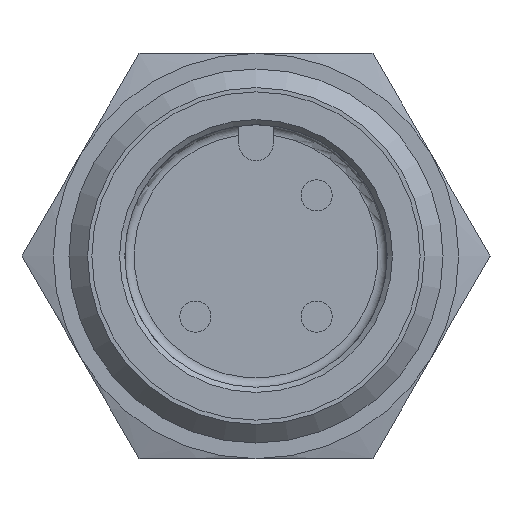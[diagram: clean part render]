
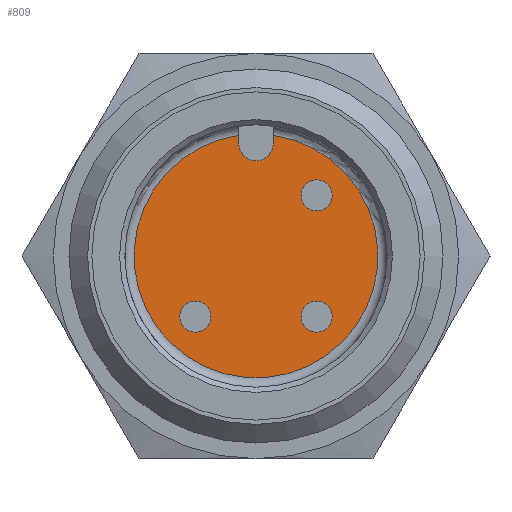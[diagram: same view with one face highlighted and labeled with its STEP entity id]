
A CAD part, left-side view. The second image highlights one B-rep face of the part: STEP entity #809.
In plain terms, the highlighted planar face has unit normal (-1, 0, 0).
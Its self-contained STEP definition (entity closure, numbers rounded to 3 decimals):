
#44=LINE('',#1521,#58);
#45=LINE('',#1525,#59);
#58=VECTOR('',#1097,1000.);
#59=VECTOR('',#1100,1000.);
#90=PLANE('',#922);
#121=CIRCLE('',#923,3.91);
#122=CIRCLE('',#924,0.55);
#123=CIRCLE('',#925,0.5);
#124=CIRCLE('',#926,0.5);
#125=CIRCLE('',#927,0.5);
#253=ORIENTED_EDGE('',*,*,#399,.F.);
#254=ORIENTED_EDGE('',*,*,#400,.T.);
#255=ORIENTED_EDGE('',*,*,#401,.T.);
#256=ORIENTED_EDGE('',*,*,#402,.T.);
#257=ORIENTED_EDGE('',*,*,#403,.T.);
#258=ORIENTED_EDGE('',*,*,#404,.T.);
#259=ORIENTED_EDGE('',*,*,#405,.T.);
#399=EDGE_CURVE('',#477,#478,#121,.T.);
#400=EDGE_CURVE('',#477,#479,#44,.T.);
#401=EDGE_CURVE('',#479,#480,#122,.T.);
#402=EDGE_CURVE('',#480,#478,#45,.T.);
#403=EDGE_CURVE('',#481,#481,#123,.T.);
#404=EDGE_CURVE('',#482,#482,#124,.T.);
#405=EDGE_CURVE('',#483,#483,#125,.T.);
#477=VERTEX_POINT('',#1519);
#478=VERTEX_POINT('',#1520);
#479=VERTEX_POINT('',#1522);
#480=VERTEX_POINT('',#1524);
#481=VERTEX_POINT('',#1527);
#482=VERTEX_POINT('',#1529);
#483=VERTEX_POINT('',#1531);
#588=EDGE_LOOP('',(#253,#254,#255,#256));
#589=EDGE_LOOP('',(#257));
#590=EDGE_LOOP('',(#258));
#591=EDGE_LOOP('',(#259));
#693=FACE_BOUND('',#588,.T.);
#694=FACE_BOUND('',#589,.T.);
#695=FACE_BOUND('',#590,.T.);
#696=FACE_BOUND('',#591,.T.);
#809=ADVANCED_FACE('',(#693,#694,#695,#696),#90,.F.);
#922=AXIS2_PLACEMENT_3D('',#1517,#1093,#1094);
#923=AXIS2_PLACEMENT_3D('',#1518,#1095,#1096);
#924=AXIS2_PLACEMENT_3D('',#1523,#1098,#1099);
#925=AXIS2_PLACEMENT_3D('',#1526,#1101,#1102);
#926=AXIS2_PLACEMENT_3D('',#1528,#1103,#1104);
#927=AXIS2_PLACEMENT_3D('',#1530,#1105,#1106);
#1093=DIRECTION('',(1.,0.,0.));
#1094=DIRECTION('',(0.,0.,-1.));
#1095=DIRECTION('',(1.,0.,0.));
#1096=DIRECTION('',(0.,0.,-1.));
#1097=DIRECTION('',(0.,0.,-1.));
#1098=DIRECTION('',(1.,0.,0.));
#1099=DIRECTION('',(0.,0.,-1.));
#1100=DIRECTION('',(0.,0.,1.));
#1101=DIRECTION('',(1.,0.,0.));
#1102=DIRECTION('',(0.,0.,-1.));
#1103=DIRECTION('',(1.,0.,0.));
#1104=DIRECTION('',(0.,0.,-1.));
#1105=DIRECTION('',(1.,0.,0.));
#1106=DIRECTION('',(0.,0.,-1.));
#1517=CARTESIAN_POINT('',(8.8,0.,0.));
#1518=CARTESIAN_POINT('',(8.8,0.,0.));
#1519=CARTESIAN_POINT('',(8.8,-0.55,3.871));
#1520=CARTESIAN_POINT('',(8.8,0.55,3.871));
#1521=CARTESIAN_POINT('',(8.8,-0.55,4.6));
#1522=CARTESIAN_POINT('',(8.8,-0.55,3.6));
#1523=CARTESIAN_POINT('',(8.8,0.,3.6));
#1524=CARTESIAN_POINT('',(8.8,0.55,3.6));
#1525=CARTESIAN_POINT('',(8.8,0.55,3.6));
#1526=CARTESIAN_POINT('',(8.8,-1.945,1.945));
#1527=CARTESIAN_POINT('',(8.8,-1.945,1.445));
#1528=CARTESIAN_POINT('',(8.8,-1.945,-1.945));
#1529=CARTESIAN_POINT('',(8.8,-1.945,-2.445));
#1530=CARTESIAN_POINT('',(8.8,1.945,-1.945));
#1531=CARTESIAN_POINT('',(8.8,1.945,-2.445));
